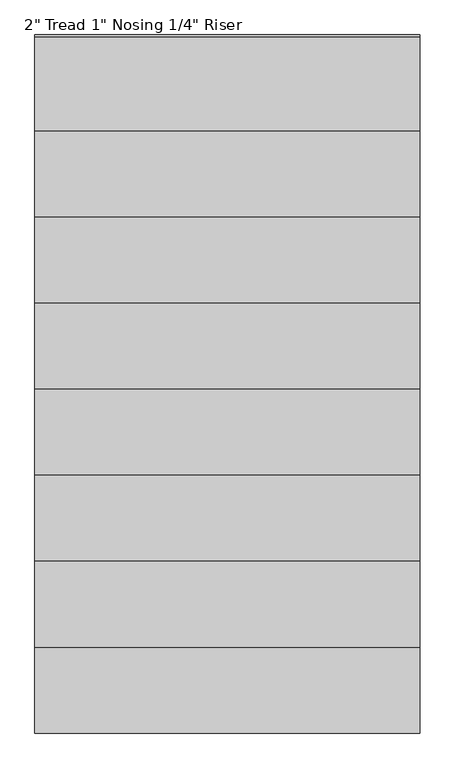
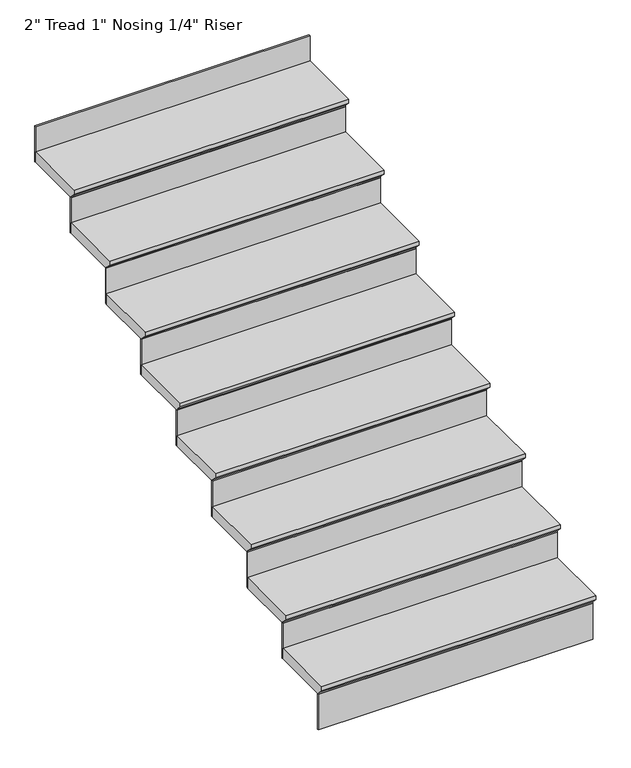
"""IFC4 building model written with IfcOpenShell, lengths in millimetres: stair flight geometry."""

from ifc_helpers import new_model, si_unit, frame, origin, place, context, project, spatial, polyline, outline, extrude, source, transform, mapped, element, save


def stair_flight_40a3b3b1(model_context):
    return source(origin(), model_context, "Body", "SweptSolid", [
        extrude(outline(polyline([(2006.6, 7406.64), (2311.4, 7406.64), (2311.4, 7355.84), (2032.0, 7355.84), (2032.0, 7362.19), (2006.6, 7387.59), (2006.6, 7406.64)])), frame((17805.4060672, 0.0, 0.0), z_axis=(1.0, 0.0, 0.0), x_axis=(0.0, 1.0, 0.0)), (0.0, 0.0, 1.0), 1252.0581355),
        extrude(outline(polyline([(19057.4642027, 2038.35), (19057.4642027, 2032.0), (17805.4060672, 2032.0), (17805.4060672, 2038.35), (19057.4642027, 2038.35)])), frame((0.0, 0.0, 7183.12), z_axis=(0.0, 0.0, 1.0), x_axis=(1.0, 0.0, 0.0)), (0.0, 0.0, 1.0), 172.72),
        extrude(outline(polyline([(19057.4642027, 2317.75), (19057.4642027, 2311.4), (17805.4060672, 2311.4), (17805.4060672, 2317.75), (19057.4642027, 2317.75)])), frame((0.0, 0.0, 7355.84), z_axis=(0.0, 0.0, 1.0), x_axis=(1.0, 0.0, 0.0)), (0.0, 0.0, 1.0), 172.72),
        extrude(outline(polyline([(2286.0, 7579.36), (2590.8, 7579.36), (2590.8, 7528.56), (2311.4, 7528.56), (2311.4, 7534.91), (2286.0, 7560.31), (2286.0, 7579.36)])), frame((17805.4060672, 0.0, 0.0), z_axis=(1.0, 0.0, 0.0), x_axis=(0.0, 1.0, 0.0)), (0.0, 0.0, 1.0), 1252.0581355),
        extrude(outline(polyline([(19057.4642027, 2597.15), (19057.4642027, 2590.8), (17805.4060672, 2590.8), (17805.4060672, 2597.15), (19057.4642027, 2597.15)])), frame((0.0, 0.0, 7528.56), z_axis=(0.0, 0.0, 1.0), x_axis=(1.0, 0.0, 0.0)), (0.0, 0.0, 1.0), 172.72),
        extrude(outline(polyline([(2565.4, 7752.08), (2870.2, 7752.08), (2870.2, 7701.28), (2590.8, 7701.28), (2590.8, 7707.63), (2565.4, 7733.03), (2565.4, 7752.08)])), frame((17805.4060672, 0.0, 0.0), z_axis=(1.0, 0.0, 0.0), x_axis=(0.0, 1.0, 0.0)), (0.0, 0.0, 1.0), 1252.0581355),
        extrude(outline(polyline([(19057.4642027, 2876.55), (19057.4642027, 2870.2), (17805.4060672, 2870.2), (17805.4060672, 2876.55), (19057.4642027, 2876.55)])), frame((0.0, 0.0, 7701.28), z_axis=(0.0, 0.0, 1.0), x_axis=(1.0, 0.0, 0.0)), (0.0, 0.0, 1.0), 172.72),
        extrude(outline(polyline([(2844.8, 7924.8), (3149.6, 7924.8), (3149.6, 7874.0), (2870.2, 7874.0), (2870.2, 7880.35), (2844.8, 7905.75), (2844.8, 7924.8)])), frame((17805.4060672, 0.0, 0.0), z_axis=(1.0, 0.0, 0.0), x_axis=(0.0, 1.0, 0.0)), (0.0, 0.0, 1.0), 1252.0581355),
        extrude(outline(polyline([(19057.4642027, 3155.95), (19057.4642027, 3149.6), (17805.4060672, 3149.6), (17805.4060672, 3155.95), (19057.4642027, 3155.95)])), frame((0.0, 0.0, 7874.0), z_axis=(0.0, 0.0, 1.0), x_axis=(1.0, 0.0, 0.0)), (0.0, 0.0, 1.0), 172.72),
        extrude(outline(polyline([(3124.2, 8097.52), (3429.0, 8097.52), (3429.0, 8046.72), (3149.6, 8046.72), (3149.6, 8053.07), (3124.2, 8078.47), (3124.2, 8097.52)])), frame((17805.4060672, 0.0, 0.0), z_axis=(1.0, 0.0, 0.0), x_axis=(0.0, 1.0, 0.0)), (0.0, 0.0, 1.0), 1252.0581355),
        extrude(outline(polyline([(19057.4642027, 3435.35), (19057.4642027, 3429.0), (17805.4060672, 3429.0), (17805.4060672, 3435.35), (19057.4642027, 3435.35)])), frame((0.0, 0.0, 8046.72), z_axis=(0.0, 0.0, 1.0), x_axis=(1.0, 0.0, 0.0)), (0.0, 0.0, 1.0), 172.72),
        extrude(outline(polyline([(3403.6, 8270.24), (3708.4, 8270.24), (3708.4, 8219.44), (3429.0, 8219.44), (3429.0, 8225.79), (3403.6, 8251.19), (3403.6, 8270.24)])), frame((17805.4060672, 0.0, 0.0), z_axis=(1.0, 0.0, 0.0), x_axis=(0.0, 1.0, 0.0)), (0.0, 0.0, 1.0), 1252.0581355),
        extrude(outline(polyline([(19057.4642027, 3714.75), (19057.4642027, 3708.4), (17805.4060672, 3708.4), (17805.4060672, 3714.75), (19057.4642027, 3714.75)])), frame((0.0, 0.0, 8219.44), z_axis=(0.0, 0.0, 1.0), x_axis=(1.0, 0.0, 0.0)), (0.0, 0.0, 1.0), 172.72),
        extrude(outline(polyline([(3683.0, 8442.96), (3987.8, 8442.96), (3987.8, 8392.16), (3708.4, 8392.16), (3708.4, 8398.51), (3683.0, 8423.91), (3683.0, 8442.96)])), frame((17805.4060672, 0.0, 0.0), z_axis=(1.0, 0.0, 0.0), x_axis=(0.0, 1.0, 0.0)), (0.0, 0.0, 1.0), 1252.0581355),
        extrude(outline(polyline([(19057.4642027, 3994.15), (19057.4642027, 3987.8), (17805.4060672, 3987.8), (17805.4060672, 3994.15), (19057.4642027, 3994.15)])), frame((0.0, 0.0, 8392.16), z_axis=(0.0, 0.0, 1.0), x_axis=(1.0, 0.0, 0.0)), (0.0, 0.0, 1.0), 172.72),
        extrude(outline(polyline([(3962.4, 8615.68), (4267.2, 8615.68), (4267.2, 8564.88), (3987.8, 8564.88), (3987.8, 8571.23), (3962.4, 8596.63), (3962.4, 8615.68)])), frame((17805.4060672, 0.0, 0.0), z_axis=(1.0, 0.0, 0.0), x_axis=(0.0, 1.0, 0.0)), (0.0, 0.0, 1.0), 1252.0581355),
        extrude(outline(polyline([(19057.4642027, 4273.55), (19057.4642027, 4267.2), (17805.4060672, 4267.2), (17805.4060672, 4273.55), (19057.4642027, 4273.55)])), frame((0.0, 0.0, 8564.88), z_axis=(0.0, 0.0, 1.0), x_axis=(1.0, 0.0, 0.0)), (0.0, 0.0, 1.0), 172.72),
    ])


if __name__ == "__main__":
    model = new_model("IFC4")
    model_context = context("Model", 3, world=origin())
    ifc_project = project(units=[si_unit("LENGTHUNIT", "METRE", prefix="MILLI")], contexts=[model_context])
    site = spatial("IfcSite", under=ifc_project)
    building = spatial("IfcBuilding", under=site)
    placement = place(None, origin())
    stair_flight_shape = stair_flight_40a3b3b1(model_context)
    element("IfcStairFlight", 1, ObjectType="2\" Tread 1\" Nosing 1/4\" Riser", at=placement, inside=building, context=model_context, shape_type="MappedRepresentation", body=[
        mapped(stair_flight_shape, transform((0.0, 0.0, 0.0), x_axis=(1.0, 0.0, 0.0), y_axis=(0.0, 1.0, 0.0), z_axis=(0.0, 0.0, 1.0))),
    ])
    save(model, "model.ifc")
